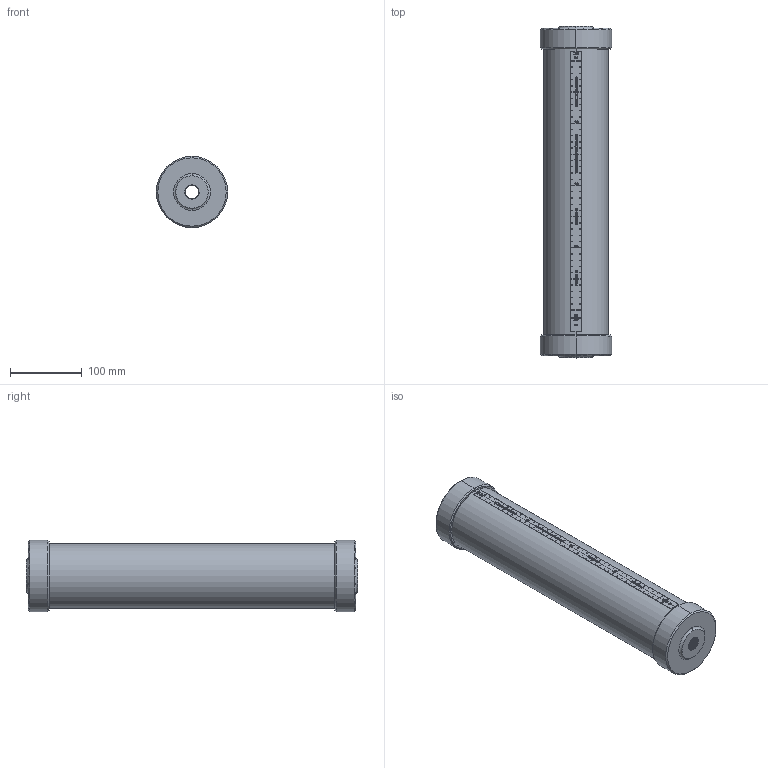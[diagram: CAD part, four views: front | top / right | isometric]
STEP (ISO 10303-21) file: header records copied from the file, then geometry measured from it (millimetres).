
FILE_DESCRIPTION (( 'STEP AP214' ), '1' );
FILE_NAME ('2.0LTR-C-11-00 Prochem Callipot.STEP', '2025-03-26T11:59:59', ( '' ), ( '' ), 'SwSTEP 2.0', 'SolidWorks 2024', '' );
FILE_SCHEMA (( 'AUTOMOTIVE_DESIGN' ));
Length unit declared in the file: millimetre
Products named in the file (1): 2.0LTR-C-11-00 Prochem Callipot
Bounding box: 99 x 461.5 x 99 mm (x, y, z)
Volume: 469955.6 mm3; surface area: 308678.4 mm2
Topology: 4 solids, 4 shells, 1565 faces, 4297 edges, 2858 vertices
Faces by surface type: plane 904, bspline 467, cylinder 174, cone 16, torus 4
Entity records: 96246 total; most frequent: CARTESIAN_POINT 42430, ORIENTED_EDGE 8594, DIRECTION 5735, EDGE_CURVE 4297, LINE 2985, VECTOR 2985, VERTEX_POINT 2858, EDGE_LOOP 1689
